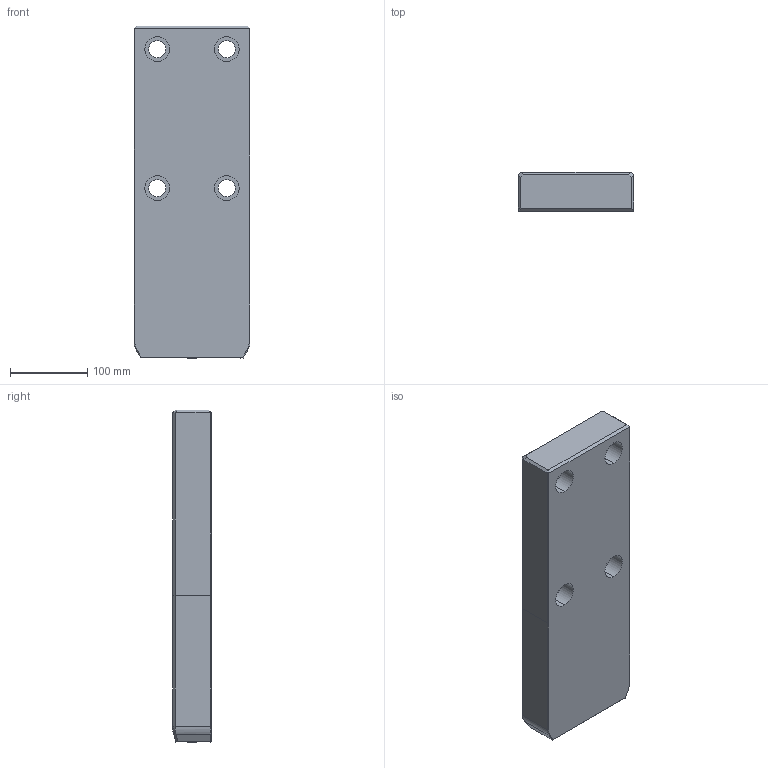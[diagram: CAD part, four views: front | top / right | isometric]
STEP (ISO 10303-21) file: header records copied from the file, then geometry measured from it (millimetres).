
FILE_DESCRIPTION((''),'2;1');
FILE_NAME('','2010-08-30T14:09:28+09:00',('misumi'),(''),'M/STEP i/f 1R2-14','CADmeister v5.1','');
FILE_SCHEMA(('AUTOMOTIVE_DESIGN'));
Length unit declared in the file: millimetre
Products named in the file (1): OGPZ150-430
Bounding box: 150 x 50 x 430 mm (x, y, z)
Volume: 3091132 mm3; surface area: 197383.6 mm2
Topology: 1 solids, 1 shells, 66 faces, 156 edges, 97 vertices
Faces by surface type: plane 37, cylinder 21, bspline 6, cone 2
Entity records: 2262 total; most frequent: CARTESIAN_POINT 662, ORIENTED_EDGE 312, DIRECTION 300, EDGE_CURVE 156, AXIS2_PLACEMENT_3D 101, LINE 98, VECTOR 98, VERTEX_POINT 97
